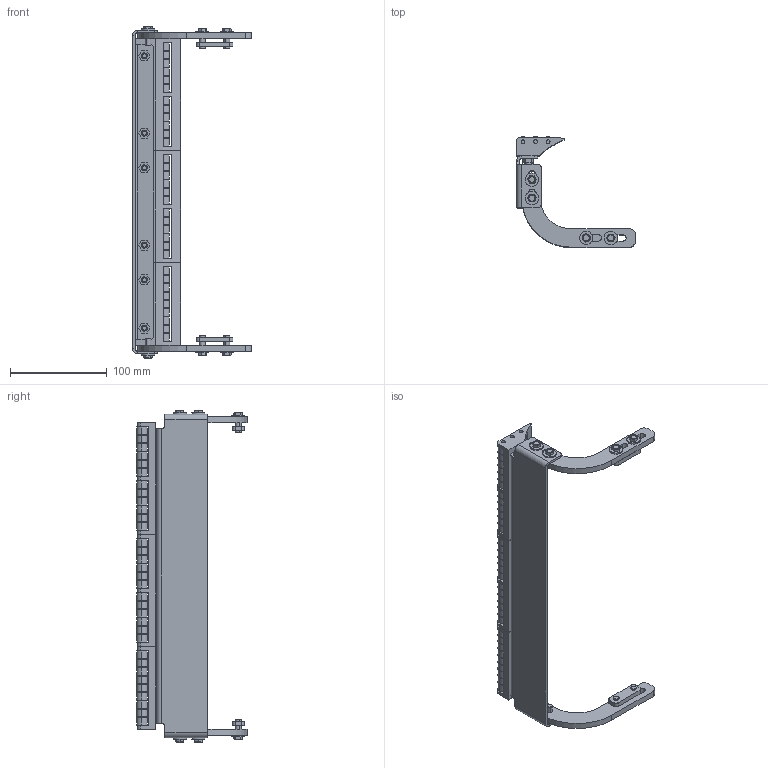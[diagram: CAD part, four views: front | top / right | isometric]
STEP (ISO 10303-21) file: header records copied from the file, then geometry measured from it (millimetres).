
FILE_DESCRIPTION((''),'2;1');
FILE_NAME('518355-12_ASM','2023-03-24T',('jenni.wallner'),(''),'PRO/ENGINEER BY PARAMETRIC TECHNOLOGY CORPORATION, 2012420','PRO/ENGINEER BY PARAMETRIC TECHNOLOGY CORPORATION, 2012420','');
FILE_SCHEMA(('CONFIG_CONTROL_DESIGN'));
Length unit declared in the file: inch
Products named in the file (75): 960616MSSF; 532387; 807-1830_13-1-SOLID1; 807-1830_34-1-SOLID1; 807-1830_4-1-SOLID1; 807-1830_36-1-SOLID1; 807-1830_18-1-SOLID1; 807-1830_32-1-SOLID1; 807-1830_24-1-SOLID1; 807-1830_31-1-SOLID1; 807-1830_11-1-SOLID1; 807-1830_22-1-SOLID1; 807-1830_7-1-SOLID1; 807-1830_20-1-SOLID1; 807-1830_28-1-SOLID1; 807-1830_8-1-SOLID1; 807-1830_21-1-SOLID1; 807-1830_6-1-SOLID1; 807-1830_25-1-SOLID1; 807-1830_3-1-SOLID1; 807-1830_12-1-SOLID1; 807-1830_2-1-SOLID1; 807-1830_1-1-SOLID1; 807-1830_33-1-SOLID1; 807-1830-1-SOLID1; 807-1830_5-1-SOLID1; 807-1830_9-1-SOLID1; 807-1830_26-1-SOLID1; 807-1830_16-1-SOLID1; 807-1830_19-1-SOLID1; 807-1830_29-1-SOLID1; 807-1830_14-1-SOLID1; 807-1830_23-1-SOLID1; 807-1830_27-1-SOLID1; 807-1830_30-1-SOLID1; 807-1830_15-1-SOLID1; 807-1830_35-1-SOLID1; 807-1830_17-1-SOLID1; 807-1830_10-1-SOLID1; 807-1830_ASM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
Assembly tree (84 placements, depth 4):
  518355-12_ASM
    ASM0001_ASM
      960616MSSF  x8
      532387  x2
      807-1830_ASM  x2
        807-1830_13-1-SOLID1
        807-1830_34-1-SOLID1
        807-1830_4-1-SOLID1
        807-1830_36-1-SOLID1
        807-1830_18-1-SOLID1
        807-1830_32-1-SOLID1
        807-1830_24-1-SOLID1
        807-1830_31-1-SOLID1
        807-1830_11-1-SOLID1
        807-1830_22-1-SOLID1
        807-1830_7-1-SOLID1
        807-1830_20-1-SOLID1
        807-1830_28-1-SOLID1
        807-1830_8-1-SOLID1
        807-1830_21-1-SOLID1
        807-1830_6-1-SOLID1
        807-1830_25-1-SOLID1
        807-1830_3-1-SOLID1
        807-1830_12-1-SOLID1
        807-1830_2-1-SOLID1
        807-1830_1-1-SOLID1
        807-1830_33-1-SOLID1
        807-1830-1-SOLID1
        807-1830_5-1-SOLID1
        807-1830_9-1-SOLID1
        807-1830_26-1-SOLID1
        807-1830_16-1-SOLID1
        807-1830_19-1-SOLID1
        807-1830_29-1-SOLID1
        807-1830_14-1-SOLID1
        807-1830_23-1-SOLID1
        807-1830_27-1-SOLID1
        807-1830_30-1-SOLID1
        807-1830_15-1-SOLID1
        807-1830_35-1-SOLID1
        807-1830_17-1-SOLID1
        807-1830_10-1-SOLID1
      518353-WW_518353-12
      520309  x2
      807-1829_ASM
        807-1829_2-1-SOLID1
        807-1829_26-1-SOLID1
        807-1829_27-1-SOLID1
        807-1829_25-1-SOLID1
        807-1829_5-1-SOLID1
        807-1829_21-1-SOLID1
        807-1829_9-1-SOLID1
        807-1829_15-1-SOLID1
        CUT-EXTRUDE1_1_
        807-1829_6-1-SOLID1
        807-1829_12-1-SOLID1
        CUT-EXTRUDE1_2_
        807-1829_4-1-SOLID1
        807-1829_18-1-SOLID1
        807-1829_24-1-SOLID1
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Bounding box: 122.82 x 114.68 x 343.32 mm (x, y, z)
Volume: 276250.8 mm3; surface area: 168718.3 mm2
Topology: 117 solids, 117 shells, 911 faces, 1873 edges, 1231 vertices
Faces by surface type: plane 456, cylinder 411, cone 44
Entity records: 16144 total; most frequent: DIRECTION 3100, CARTESIAN_POINT 2586, ORIENTED_EDGE 2134, AXIS2_PLACEMENT_3D 1281, EDGE_CURVE 1067, VERTEX_POINT 703, EDGE_LOOP 592, VECTOR 538
